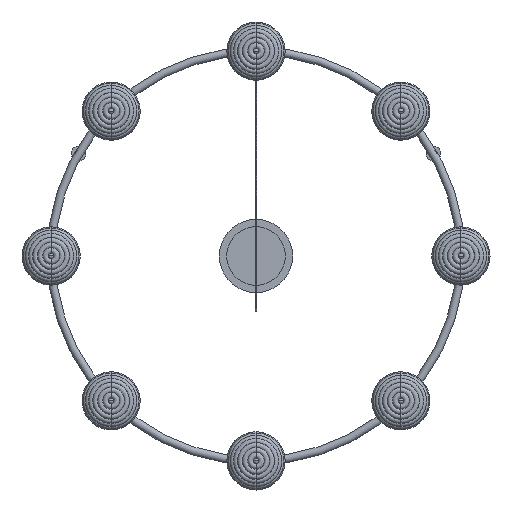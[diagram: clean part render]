
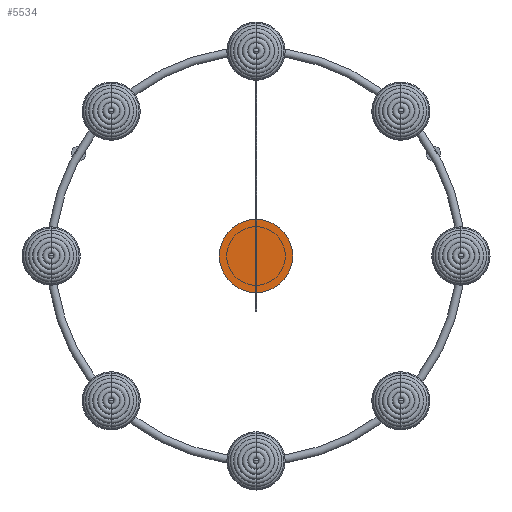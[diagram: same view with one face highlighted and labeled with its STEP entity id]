
A CAD part, front view. The second image highlights one B-rep face of the part: STEP entity #5534.
In plain terms, the highlighted planar face has unit normal (0, -1, 0).
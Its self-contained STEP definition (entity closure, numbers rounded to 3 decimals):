
#263 = EDGE_CURVE ( 'NONE', #10840, #3403, #2124, .T. ) ;
#1630 = FACE_OUTER_BOUND ( 'NONE', #10516, .T. ) ;
#1667 = DIRECTION ( 'NONE',  ( 0., 0., 1. ) ) ;
#2124 = CIRCLE ( 'NONE', #10507, 62.5 ) ;
#2881 = CARTESIAN_POINT ( 'NONE',  ( -81.488, 1097.229, 787.5 ) ) ;
#3403 = VERTEX_POINT ( 'NONE', #2881 ) ;
#5534 = ADVANCED_FACE ( 'NONE', ( #1630 ), #6979, .T. ) ;
#6239 = CARTESIAN_POINT ( 'NONE',  ( -81.488, 1097.229, 662.5 ) ) ;
#6881 = DIRECTION ( 'NONE',  ( 0., 0., 1. ) ) ;
#6979 = PLANE ( 'NONE',  #8641 ) ;
#7644 = ORIENTED_EDGE ( 'NONE', *, *, #9136, .T. ) ;
#7871 = DIRECTION ( 'NONE',  ( 0., -1., 0. ) ) ;
#8001 = CARTESIAN_POINT ( 'NONE',  ( -81.488, 1097.229, 725. ) ) ;
#8641 = AXIS2_PLACEMENT_3D ( 'NONE', #8001, #7871, #6881 ) ;
#9136 = EDGE_CURVE ( 'NONE', #3403, #10840, #10971, .T. ) ;
#9956 = CARTESIAN_POINT ( 'NONE',  ( -81.488, 1097.229, 725. ) ) ;
#10507 = AXIS2_PLACEMENT_3D ( 'NONE', #12940, #10852, #1667 ) ;
#10516 = EDGE_LOOP ( 'NONE', ( #10996, #7644 ) ) ;
#10840 = VERTEX_POINT ( 'NONE', #6239 ) ;
#10852 = DIRECTION ( 'NONE',  ( 0., -1., 0. ) ) ;
#10971 = CIRCLE ( 'NONE', #12470, 62.5 ) ;
#10972 = DIRECTION ( 'NONE',  ( 0., -1., 0. ) ) ;
#10996 = ORIENTED_EDGE ( 'NONE', *, *, #263, .T. ) ;
#12470 = AXIS2_PLACEMENT_3D ( 'NONE', #9956, #10972, #13065 ) ;
#12940 = CARTESIAN_POINT ( 'NONE',  ( -81.488, 1097.229, 725. ) ) ;
#13065 = DIRECTION ( 'NONE',  ( 0., 0., 1. ) ) ;
